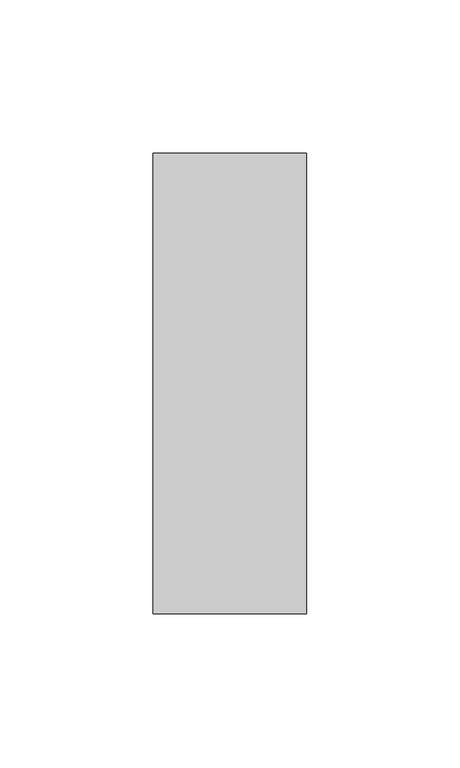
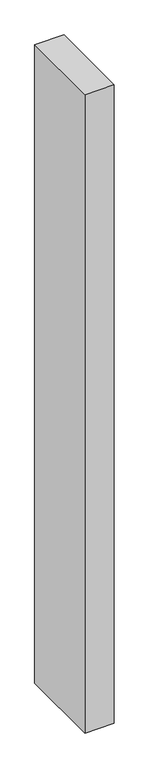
"""IFC4 building model written with IfcOpenShell, lengths in millimetres: member geometry, Прямоугольный импост : 50х150мм."""

from ifc_helpers import new_model, si_unit, frame, origin, place, context, project, spatial, polyline, outline, extrude, source, transform, mapped, element, save


def member_65e6a114(model_context):
    return source(origin(), model_context, "Body", "SweptSolid", [
        extrude(outline(polyline([(0.0, 75.0), (0.0, -75.0), (-50.0, -75.0), (-50.0, 75.0), (0.0, 75.0)])), frame((0.0, 0.0, -1160.0), z_axis=(0.0, 0.0, 1.0), x_axis=(1.0, 0.0, 0.0)), (0.0, 0.0, 1.0), 1160.0),
    ])


if __name__ == "__main__":
    model = new_model("IFC4")
    model_context = context("Model", 3, world=origin())
    ifc_project = project(units=[si_unit("LENGTHUNIT", "METRE", prefix="MILLI")], contexts=[model_context])
    site = spatial("IfcSite", under=ifc_project)
    building = spatial("IfcBuilding", under=site)
    placement = place(None, origin())
    member_shape = member_65e6a114(model_context)
    element("IfcMember", 1, ObjectType="Прямоугольный импост : 50х150мм", at=placement, inside=building, context=model_context, shape_type="MappedRepresentation", body=[
        mapped(member_shape, transform((0.0, 0.0, 0.0), x_axis=(1.0, 0.0, 0.0), y_axis=(0.0, 1.0, 0.0), z_axis=(0.0, 0.0, 1.0))),
    ])
    save(model, "model.ifc")
